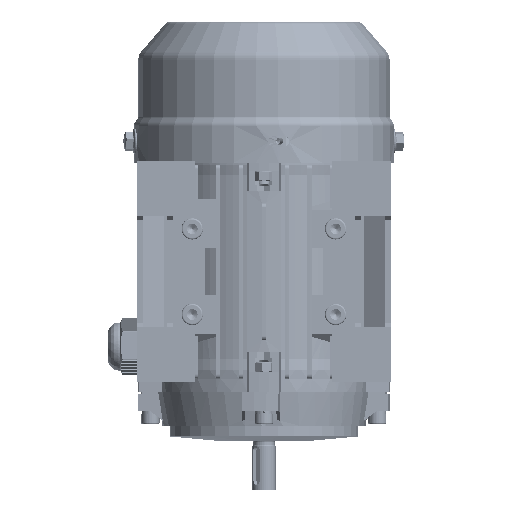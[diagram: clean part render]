
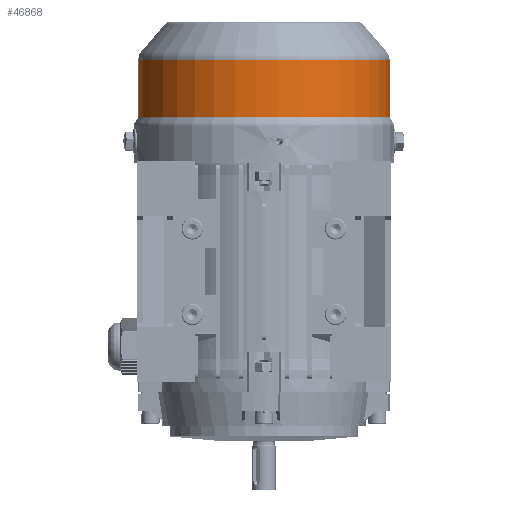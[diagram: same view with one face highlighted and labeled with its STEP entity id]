
A CAD part, front view. The second image highlights one B-rep face of the part: STEP entity #46868.
In plain terms, the highlighted cylindrical face has radius 58.8 mm (diameter 117.6 mm), a partial arc.
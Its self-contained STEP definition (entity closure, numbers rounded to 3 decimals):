
#1508 = ORIENTED_EDGE ( 'NONE', *, *, #70737, .F. ) ;
#3769 = AXIS2_PLACEMENT_3D ( 'NONE', #38298, #27790, #82425 ) ;
#7076 = CIRCLE ( 'NONE', #31785, 58.8 ) ;
#8351 = CARTESIAN_POINT ( 'NONE',  ( -58.8, 17.63, 0. ) ) ;
#10815 = CYLINDRICAL_SURFACE ( 'NONE', #3769, 58.8 ) ;
#18055 = CARTESIAN_POINT ( 'NONE',  ( 58.8, 60.025, 0. ) ) ;
#18487 = VECTOR ( 'NONE', #87659, 1000. ) ;
#22341 = VECTOR ( 'NONE', #139768, 1000. ) ;
#23695 = CARTESIAN_POINT ( 'NONE',  ( -58.8, 60.025, 0. ) ) ;
#26740 = AXIS2_PLACEMENT_3D ( 'NONE', #117848, #52178, #128915 ) ;
#27790 = DIRECTION ( 'NONE',  ( 0., -1., 0. ) ) ;
#31785 = AXIS2_PLACEMENT_3D ( 'NONE', #37689, #114423, #48707 ) ;
#36068 = EDGE_CURVE ( 'NONE', #119770, #66969, #54449, .T. ) ;
#37689 = CARTESIAN_POINT ( 'NONE',  ( 0., 33.496, 0. ) ) ;
#38298 = CARTESIAN_POINT ( 'NONE',  ( 0., 17.63, 0. ) ) ;
#44834 = CARTESIAN_POINT ( 'NONE',  ( -58.8, 33.496, 0. ) ) ;
#46868 = ADVANCED_FACE ( 'NONE', ( #130972 ), #10815, .T. ) ;
#48707 = DIRECTION ( 'NONE',  ( 1., 0., 0. ) ) ;
#51093 = VERTEX_POINT ( 'NONE', #23695 ) ;
#52178 = DIRECTION ( 'NONE',  ( 0., -1., 0. ) ) ;
#54449 = LINE ( 'NONE', #65514, #18487 ) ;
#54718 = EDGE_LOOP ( 'NONE', ( #1508, #75769, #134535, #108859 ) ) ;
#65514 = CARTESIAN_POINT ( 'NONE',  ( 58.8, 17.63, 0. ) ) ;
#66969 = VERTEX_POINT ( 'NONE', #80761 ) ;
#70537 = VERTEX_POINT ( 'NONE', #44834 ) ;
#70737 = EDGE_CURVE ( 'NONE', #51093, #70537, #113267, .T. ) ;
#75769 = ORIENTED_EDGE ( 'NONE', *, *, #128150, .T. ) ;
#80761 = CARTESIAN_POINT ( 'NONE',  ( 58.8, 33.496, 0. ) ) ;
#82425 = DIRECTION ( 'NONE',  ( 1., 0., 0. ) ) ;
#87659 = DIRECTION ( 'NONE',  ( 0., -1., 0. ) ) ;
#94254 = EDGE_CURVE ( 'NONE', #70537, #66969, #7076, .T. ) ;
#108859 = ORIENTED_EDGE ( 'NONE', *, *, #94254, .F. ) ;
#113267 = LINE ( 'NONE', #8351, #22341 ) ;
#114423 = DIRECTION ( 'NONE',  ( 0., -1., 0. ) ) ;
#116297 = CIRCLE ( 'NONE', #26740, 58.8 ) ;
#117848 = CARTESIAN_POINT ( 'NONE',  ( 0., 60.025, 0. ) ) ;
#119770 = VERTEX_POINT ( 'NONE', #18055 ) ;
#128150 = EDGE_CURVE ( 'NONE', #51093, #119770, #116297, .T. ) ;
#128915 = DIRECTION ( 'NONE',  ( 1., 0., 0. ) ) ;
#130972 = FACE_OUTER_BOUND ( 'NONE', #54718, .T. ) ;
#134535 = ORIENTED_EDGE ( 'NONE', *, *, #36068, .T. ) ;
#139768 = DIRECTION ( 'NONE',  ( 0., -1., 0. ) ) ;
